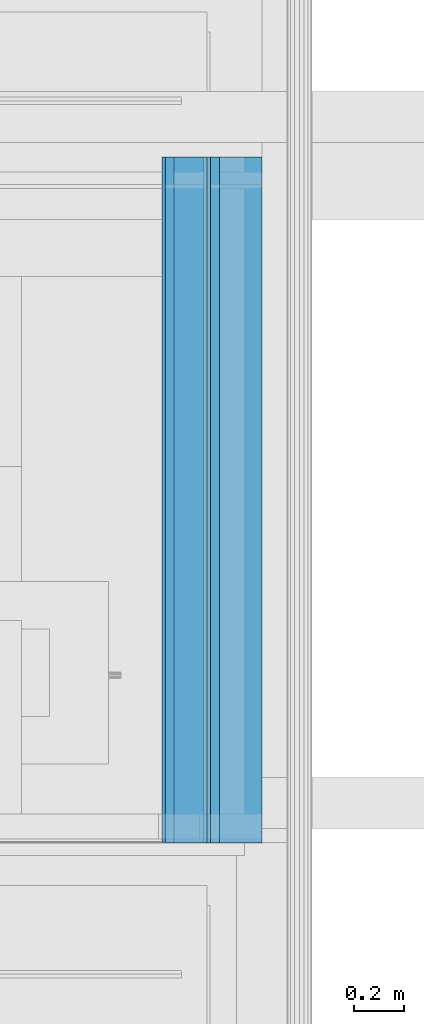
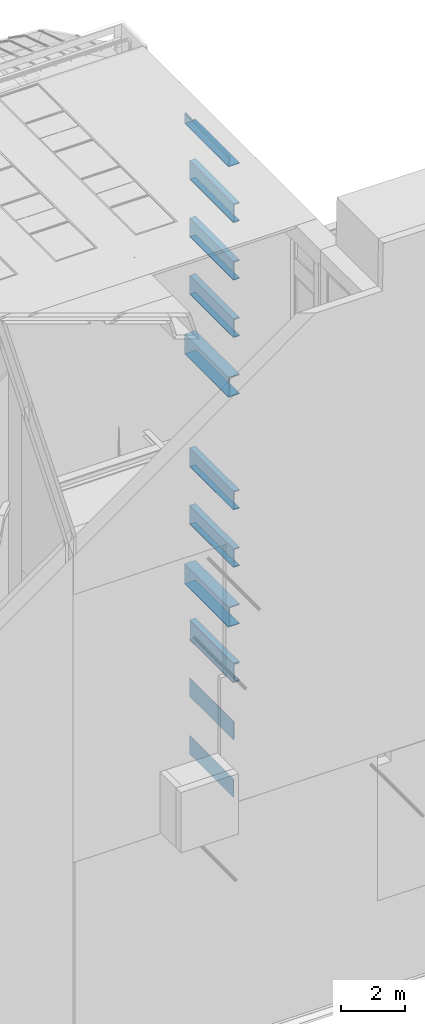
# One storey, part 113 of 583: 56 building element parts, 28 elements without a shape of their own.
"""IFC2X3 building model written with IfcOpenShell, lengths in metres."""

from ifc_helpers import new_model, entity, si_unit, converted_unit, derived_unit, money_unit, direction, frame, frame_2d, origin_with_axes, place, context, subcontext, project, spatial, polyline, rectangle, outline, extrude, material, type_object, element, aggregate, save


model = new_model("IFC2X3")

# Units and contexts
model_context = context("Model", 3, precision=1e-05, world=origin_with_axes(), true_north=direction((0.0, 1.0)))
body_context = subcontext(model_context, "Body", "Model", "MODEL_VIEW", scale=1.0)
ifc_project = project(units=[si_unit("LENGTHUNIT", "METRE"), si_unit("AREAUNIT", "SQUARE_METRE"), si_unit("VOLUMEUNIT", "CUBIC_METRE"), si_unit("ABSORBEDDOSEUNIT", "GRAY"), si_unit("AMOUNTOFSUBSTANCEUNIT", "MOLE"), si_unit("DOSEEQUIVALENTUNIT", "SIEVERT"), si_unit("ELECTRICCAPACITANCEUNIT", "FARAD"), si_unit("ELECTRICCHARGEUNIT", "COULOMB"), si_unit("ELECTRICCONDUCTANCEUNIT", "SIEMENS"), si_unit("ELECTRICCURRENTUNIT", "AMPERE"), si_unit("ELECTRICRESISTANCEUNIT", "OHM"), si_unit("ELECTRICVOLTAGEUNIT", "VOLT"), si_unit("ENERGYUNIT", "JOULE"), si_unit("FORCEUNIT", "NEWTON"), si_unit("FREQUENCYUNIT", "HERTZ"), si_unit("ILLUMINANCEUNIT", "LUX"), si_unit("INDUCTANCEUNIT", "HENRY"), si_unit("LUMINOUSFLUXUNIT", "LUMEN"), si_unit("LUMINOUSINTENSITYUNIT", "CANDELA"), si_unit("MAGNETICFLUXDENSITYUNIT", "TESLA"), si_unit("MAGNETICFLUXUNIT", "WEBER"), si_unit("MASSUNIT", "GRAM"), converted_unit("PLANEANGLEUNIT", "degree", entity("IfcReal", 0.0174532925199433), si_unit("PLANEANGLEUNIT", "RADIAN"), dimensions=[0, 0, 0, 0, 0, 0, 0]), si_unit("POWERUNIT", "WATT"), si_unit("PRESSUREUNIT", "PASCAL"), si_unit("RADIOACTIVITYUNIT", "BECQUEREL"), si_unit("SOLIDANGLEUNIT", "STERADIAN"), si_unit("THERMODYNAMICTEMPERATUREUNIT", "KELVIN"), si_unit("TIMEUNIT", "SECOND"), derived_unit("ACCELERATIONUNIT", [(si_unit("LENGTHUNIT", "METRE"), 1), (si_unit("TIMEUNIT", "SECOND"), -2)]), derived_unit("ANGULARVELOCITYUNIT", [(converted_unit("PLANEANGLEUNIT", "degree", entity("IfcReal", 0.0174532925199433), si_unit("PLANEANGLEUNIT", "RADIAN"), dimensions=[0, 0, 0, 0, 0, 0, 0]), 1), (si_unit("TIMEUNIT", "SECOND"), -1)]), derived_unit("CURVATUREUNIT", [(converted_unit("PLANEANGLEUNIT", "degree", entity("IfcReal", 0.0174532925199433), si_unit("PLANEANGLEUNIT", "RADIAN"), dimensions=[0, 0, 0, 0, 0, 0, 0]), 1), (si_unit("LENGTHUNIT", "METRE"), -1)]), derived_unit("DYNAMICVISCOSITYUNIT", [(si_unit("PRESSUREUNIT", "PASCAL"), 1), (si_unit("TIMEUNIT", "SECOND"), 1)]), derived_unit("HEATFLUXDENSITYUNIT", [(si_unit("POWERUNIT", "WATT"), 1), (si_unit("LENGTHUNIT", "METRE"), -2)]), derived_unit("HEATINGVALUEUNIT", [(si_unit("ENERGYUNIT", "JOULE"), 1), (si_unit("MASSUNIT", "GRAM"), -1)]), derived_unit("INTEGERCOUNTRATEUNIT", [(si_unit("TIMEUNIT", "SECOND"), -1)]), derived_unit("IONCONCENTRATIONUNIT", [(si_unit("MASSUNIT", "GRAM"), 1), (si_unit("VOLUMEUNIT", "CUBIC_METRE"), -1)]), derived_unit("ISOTHERMALMOISTURECAPACITYUNIT", [(si_unit("VOLUMEUNIT", "CUBIC_METRE"), 1), (si_unit("MASSUNIT", "GRAM"), -1)]), derived_unit("KINEMATICVISCOSITYUNIT", [(si_unit("AREAUNIT", "SQUARE_METRE"), 1), (si_unit("TIMEUNIT", "SECOND"), -1)]), derived_unit("LINEARFORCEUNIT", [(si_unit("FORCEUNIT", "NEWTON"), 1), (si_unit("LENGTHUNIT", "METRE"), -1)]), derived_unit("LINEARMOMENTUNIT", [(si_unit("FORCEUNIT", "NEWTON"), 1), (si_unit("LENGTHUNIT", "METRE"), -1)]), derived_unit("LINEARSTIFFNESSUNIT", [(si_unit("FORCEUNIT", "NEWTON"), 1), (si_unit("LENGTHUNIT", "METRE"), -1)]), derived_unit("LINEARVELOCITYUNIT", [(si_unit("LENGTHUNIT", "METRE"), 1), (si_unit("TIMEUNIT", "SECOND"), -1)]), derived_unit("LUMINOUSINTENSITYDISTRIBUTIONUNIT", [(si_unit("LUMINOUSINTENSITYUNIT", "CANDELA"), 1), (si_unit("LUMINOUSFLUXUNIT", "LUMEN"), -1)]), derived_unit("MASSDENSITYUNIT", [(si_unit("MASSUNIT", "GRAM"), 1), (si_unit("VOLUMEUNIT", "CUBIC_METRE"), -1)]), derived_unit("MASSFLOWRATEUNIT", [(si_unit("MASSUNIT", "GRAM"), 1), (si_unit("TIMEUNIT", "SECOND"), -1)]), derived_unit("MASSPERLENGTHUNIT", [(si_unit("MASSUNIT", "GRAM"), 1), (si_unit("LENGTHUNIT", "METRE"), -1)]), derived_unit("MODULUSOFELASTICITYUNIT", [(si_unit("FORCEUNIT", "NEWTON"), 1), (si_unit("AREAUNIT", "SQUARE_METRE"), -1)]), derived_unit("MODULUSOFLINEARSUBGRADEREACTIONUNIT", [(si_unit("FORCEUNIT", "NEWTON"), 1), (si_unit("LENGTHUNIT", "METRE"), -2)]), derived_unit("MODULUSOFROTATIONALSUBGRADEREACTIONUNIT", [(si_unit("FORCEUNIT", "NEWTON"), 1), (si_unit("LENGTHUNIT", "METRE"), 1)]), derived_unit("MODULUSOFSUBGRADEREACTIONUNIT", [(si_unit("FORCEUNIT", "NEWTON"), 1), (si_unit("VOLUMEUNIT", "CUBIC_METRE"), -1)]), derived_unit("MOISTUREDIFFUSIVITYUNIT", [(si_unit("VOLUMEUNIT", "CUBIC_METRE"), 1), (si_unit("TIMEUNIT", "SECOND"), -1)]), derived_unit("MOLECULARWEIGHTUNIT", [(si_unit("MASSUNIT", "GRAM"), 1), (si_unit("AMOUNTOFSUBSTANCEUNIT", "MOLE"), -1)]), derived_unit("PLANARFORCEUNIT", [(si_unit("FORCEUNIT", "NEWTON"), 1), (si_unit("LENGTHUNIT", "METRE"), -2)]), derived_unit("ROTATIONALFREQUENCYUNIT", [(si_unit("TIMEUNIT", "SECOND"), -1)]), derived_unit("ROTATIONALMASSUNIT", [(si_unit("MASSUNIT", "GRAM"), 1), (si_unit("LENGTHUNIT", "METRE"), 2)]), derived_unit("ROTATIONALSTIFFNESSUNIT", [(si_unit("FORCEUNIT", "NEWTON"), 1), (si_unit("LENGTHUNIT", "METRE"), 1), (converted_unit("PLANEANGLEUNIT", "degree", entity("IfcReal", 0.0174532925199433), si_unit("PLANEANGLEUNIT", "RADIAN"), dimensions=[0, 0, 0, 0, 0, 0, 0]), -1)]), derived_unit("SECTIONAREAINTEGRALUNIT", [(si_unit("LENGTHUNIT", "METRE"), 5)]), derived_unit("SECTIONMODULUSUNIT", [(si_unit("LENGTHUNIT", "METRE"), 3)]), derived_unit("SHEARMODULUSUNIT", [(si_unit("FORCEUNIT", "NEWTON"), 1), (si_unit("AREAUNIT", "SQUARE_METRE"), -1)]), derived_unit("SOUNDPOWERUNIT", [(si_unit("ENERGYUNIT", "JOULE"), 1), (si_unit("TIMEUNIT", "SECOND"), -1)]), derived_unit("SPECIFICHEATCAPACITYUNIT", [(si_unit("FORCEUNIT", "NEWTON"), 1), (si_unit("MASSUNIT", "GRAM"), -1), (si_unit("THERMODYNAMICTEMPERATUREUNIT", "KELVIN"), -1)]), derived_unit("TEMPERATUREGRADIENTUNIT", [(si_unit("THERMODYNAMICTEMPERATUREUNIT", "KELVIN"), 1), (si_unit("LENGTHUNIT", "METRE"), -1)]), derived_unit("THERMALADMITTANCEUNIT", [(si_unit("POWERUNIT", "WATT"), 1), (si_unit("AREAUNIT", "SQUARE_METRE"), -1), (si_unit("THERMODYNAMICTEMPERATUREUNIT", "KELVIN"), -1)]), derived_unit("THERMALCONDUCTANCEUNIT", [(si_unit("POWERUNIT", "WATT"), 1), (si_unit("LENGTHUNIT", "METRE"), -1), (si_unit("THERMODYNAMICTEMPERATUREUNIT", "KELVIN"), -1)]), derived_unit("THERMALEXPANSIONCOEFFICIENTUNIT", [(si_unit("THERMODYNAMICTEMPERATUREUNIT", "KELVIN"), -1)]), derived_unit("THERMALRESISTANCEUNIT", [(si_unit("AREAUNIT", "SQUARE_METRE"), 1), (si_unit("POWERUNIT", "WATT"), -1)]), derived_unit("THERMALTRANSMITTANCEUNIT", [(si_unit("POWERUNIT", "WATT"), 1), (si_unit("AREAUNIT", "SQUARE_METRE"), -1), (si_unit("THERMODYNAMICTEMPERATUREUNIT", "KELVIN"), -1)]), derived_unit("TORQUEUNIT", [(si_unit("FORCEUNIT", "NEWTON"), 1), (si_unit("LENGTHUNIT", "METRE"), 1)]), derived_unit("VAPORPERMEABILITYUNIT", [(si_unit("MASSUNIT", "GRAM"), 1), (si_unit("TIMEUNIT", "SECOND"), -1)]), derived_unit("VOLUMETRICFLOWRATEUNIT", [(si_unit("VOLUMEUNIT", "CUBIC_METRE"), 1), (si_unit("TIMEUNIT", "SECOND"), -1)]), derived_unit("WARPINGCONSTANTUNIT", [(si_unit("LENGTHUNIT", "METRE"), 6)]), derived_unit("WARPINGMOMENTUNIT", [(si_unit("FORCEUNIT", "NEWTON"), 1), (si_unit("LENGTHUNIT", "METRE"), 2)]), money_unit("GBP")], contexts=[model_context])

# Site, building, storey
site_placement = place(None, origin_with_axes())
site = spatial("IfcSite", under=ifc_project, at=site_placement, Name="Site", CompositionType="ELEMENT")
building_placement = place(site_placement, origin_with_axes())
building = spatial("IfcBuilding", under=site, at=building_placement, Name="Building01", CompositionType="ELEMENT")
storey_placement = place(building_placement, frame((0.0, 0.0, 20.78), z_axis=(0.0, 0.0, 1.0), x_axis=(1.0, 0.0, 0.0)))
storey = spatial("IfcBuildingStorey", under=building, at=storey_placement, Name="RL", CompositionType="ELEMENT", Elevation=20.78)

# Wall, building element part
wall_type_1 = type_object("IfcWallType", Name="SHE_A-Walls_Type06d_ExternalWallInsulation_48mm", PredefinedType="NOTDEFINED")
wall_1_placement = place(storey_placement, frame((14.63, 8.64, -17.913), z_axis=(0.0, 1.0, 0.0), x_axis=(0.0, 0.0, -1.0)))
wall_1 = element("IfcWall", 1, at=wall_1_placement, inside=storey, type_object=wall_type_1, Name="6D", ObjectType="SHE_A-Walls_Type06d_ExternalWallInsulation_48mm")
ifc_material_1 = material(Name="A_BSUK_WallInternal_Finishes_Plasterboard")
building_element_part_1_placement = place(wall_1_placement, origin_with_axes())
building_element_part_1 = element("IfcBuildingElementPart", 2, at=building_element_part_1_placement, material=ifc_material_1, Name="3", context=body_context, shape_type="SweptSolid", body=[
    extrude(outline(polyline([(0.672, 0.048), (-0.048, 0.048), (-0.035, 0.035), (0.659, 0.035), (0.672, 0.048)])), origin_with_axes(), (0.0, 0.0, 1.0), 2.74),
])
aggregate(wall_1, [building_element_part_1])

# Wall, building element parts
wall_2_placement = place(storey_placement, frame((14.63, 8.64, -15.723), z_axis=(0.0, 1.0, 0.0), x_axis=(0.0, 0.0, -1.0)))
wall_2 = element("IfcWall", 3, at=wall_2_placement, inside=storey, type_object=wall_type_1, Name="6D", ObjectType="SHE_A-Walls_Type06d_ExternalWallInsulation_48mm")
ifc_material_2 = material(Name="A_BSUK_Insulation")
placement_1 = place(wall_2_placement, origin_with_axes())
building_element_part_2 = element("IfcBuildingElementPart", 4, at=placement_1, material=ifc_material_2, Name="1", context=body_context, shape_type="SweptSolid", body=[
    extrude(outline(polyline([(0.66, 0.036), (-0.036, 0.036), (0.0, 0.0), (0.624, 0.0), (0.66, 0.036)])), origin_with_axes(), (0.0, 0.0, 1.0), 2.74),
])
building_element_part_3 = element("IfcBuildingElementPart", 5, at=placement_1, material=ifc_material_1, Name="3", context=body_context, shape_type="SweptSolid", body=[
    extrude(outline(polyline([(0.672, 0.048), (-0.048, 0.048), (-0.035, 0.035), (0.659, 0.035), (0.672, 0.048)])), origin_with_axes(), (0.0, 0.0, 1.0), 2.74),
])
aggregate(wall_2, [building_element_part_2, building_element_part_3])

wall_3_placement = place(storey_placement, frame((14.8, 8.64, -11.32), z_axis=(0.0, 1.0, 0.0), x_axis=(-1.0, 0.0, 0.0)))
wall_3 = element("IfcWall", 6, at=wall_3_placement, inside=storey, type_object=wall_type_1, Name="6D", ObjectType="SHE_A-Walls_Type06d_ExternalWallInsulation_48mm")
placement_2 = place(wall_3_placement, origin_with_axes())
building_element_part_4 = element("IfcBuildingElementPart", 7, at=placement_2, material=ifc_material_2, Name="1", context=body_context, shape_type="SweptSolid", body=[
    extrude(outline(polyline([(0.386, 0.036), (0.0, 0.036), (0.0, 0.0), (0.35, 0.0), (0.386, 0.036)])), origin_with_axes(), (0.0, 0.0, 1.0), 2.74),
])
building_element_part_5 = element("IfcBuildingElementPart", 8, at=placement_2, material=ifc_material_1, Name="3", context=body_context, shape_type="SweptSolid", body=[
    extrude(outline(polyline([(0.398, 0.048), (0.0, 0.048), (0.0, 0.035), (0.385, 0.035), (0.398, 0.048)])), origin_with_axes(), (0.0, 0.0, 1.0), 2.74),
])
aggregate(wall_3, [building_element_part_4, building_element_part_5])

wall_4_placement = place(storey_placement, frame((14.45, 8.64, -11.32), z_axis=(0.0, 1.0, 0.0), x_axis=(0.0, 0.0, -1.0)))
wall_4 = element("IfcWall", 9, at=wall_4_placement, inside=storey, type_object=wall_type_1, Name="6D", ObjectType="SHE_A-Walls_Type06d_ExternalWallInsulation_48mm")
placement_3 = place(wall_4_placement, origin_with_axes())
building_element_part_6 = element("IfcBuildingElementPart", 10, at=placement_3, material=ifc_material_2, Name="1", context=body_context, shape_type="SweptSolid", body=[
    extrude(outline(polyline([(0.706, 0.036), (-0.036, 0.036), (0.0, 0.0), (0.67, 0.0), (0.706, 0.036)])), origin_with_axes(), (0.0, 0.0, 1.0), 2.74),
])
building_element_part_7 = element("IfcBuildingElementPart", 11, at=placement_3, material=ifc_material_1, Name="3", context=body_context, shape_type="SweptSolid", body=[
    extrude(outline(polyline([(0.718, 0.048), (-0.048, 0.048), (-0.035, 0.035), (0.705, 0.035), (0.718, 0.048)])), origin_with_axes(), (0.0, 0.0, 1.0), 2.74),
])
aggregate(wall_4, [building_element_part_6, building_element_part_7])

wall_5_placement = place(storey_placement, frame((14.45, 8.64, -11.99), z_axis=(0.0, 1.0, 0.0), x_axis=(1.0, 0.0, 0.0)))
wall_5 = element("IfcWall", 12, at=wall_5_placement, inside=storey, type_object=wall_type_1, Name="6D", ObjectType="SHE_A-Walls_Type06d_ExternalWallInsulation_48mm")
placement_4 = place(wall_5_placement, origin_with_axes())
building_element_part_8 = element("IfcBuildingElementPart", 13, at=placement_4, material=ifc_material_2, Name="1", context=body_context, shape_type="SweptSolid", body=[
    extrude(outline(polyline([(-0.036, 0.036), (0.0, 0.0), (0.35, 0.0), (0.35, 0.036), (-0.036, 0.036)])), origin_with_axes(), (0.0, 0.0, 1.0), 2.74),
])
building_element_part_9 = element("IfcBuildingElementPart", 14, at=placement_4, material=ifc_material_1, Name="3", context=body_context, shape_type="SweptSolid", body=[
    extrude(outline(polyline([(-0.048, 0.048), (-0.035, 0.035), (0.35, 0.035), (0.35, 0.048), (-0.048, 0.048)])), origin_with_axes(), (0.0, 0.0, 1.0), 2.74),
])
aggregate(wall_5, [building_element_part_8, building_element_part_9])

wall_6_placement = place(storey_placement, frame((14.8, 8.64, -9.153), z_axis=(0.0, 1.0, 0.0), x_axis=(-1.0, 0.0, 0.0)))
wall_6 = element("IfcWall", 15, at=wall_6_placement, inside=storey, type_object=wall_type_1, Name="6D", ObjectType="SHE_A-Walls_Type06d_ExternalWallInsulation_48mm")
placement_5 = place(wall_6_placement, origin_with_axes())
building_element_part_10 = element("IfcBuildingElementPart", 16, at=placement_5, material=ifc_material_2, Name="1", context=body_context, shape_type="SweptSolid", body=[
    extrude(outline(polyline([(0.206, 0.036), (0.0, 0.036), (0.0, 0.0), (0.17, 0.0), (0.206, 0.036)])), origin_with_axes(), (0.0, 0.0, 1.0), 2.74),
])
building_element_part_11 = element("IfcBuildingElementPart", 17, at=placement_5, material=ifc_material_1, Name="3", context=body_context, shape_type="SweptSolid", body=[
    extrude(outline(polyline([(0.218, 0.048), (0.0, 0.048), (0.0, 0.035), (0.205, 0.035), (0.218, 0.048)])), origin_with_axes(), (0.0, 0.0, 1.0), 2.74),
])
aggregate(wall_6, [building_element_part_10, building_element_part_11])

wall_7_placement = place(storey_placement, frame((14.63, 8.64, -9.777), z_axis=(0.0, 1.0, 0.0), x_axis=(1.0, 0.0, 0.0)))
wall_7 = element("IfcWall", 18, at=wall_7_placement, inside=storey, type_object=wall_type_1, Name="6D", ObjectType="SHE_A-Walls_Type06d_ExternalWallInsulation_48mm")
placement_6 = place(wall_7_placement, origin_with_axes())
building_element_part_12 = element("IfcBuildingElementPart", 19, at=placement_6, material=ifc_material_2, Name="1", context=body_context, shape_type="SweptSolid", body=[
    extrude(outline(polyline([(-0.036, 0.036), (0.0, 0.0), (0.17, 0.0), (0.17, 0.036), (-0.036, 0.036)])), origin_with_axes(), (0.0, 0.0, 1.0), 2.74),
])
building_element_part_13 = element("IfcBuildingElementPart", 20, at=placement_6, material=ifc_material_1, Name="3", context=body_context, shape_type="SweptSolid", body=[
    extrude(outline(polyline([(-0.048, 0.048), (-0.035, 0.035), (0.17, 0.035), (0.17, 0.048), (-0.048, 0.048)])), origin_with_axes(), (0.0, 0.0, 1.0), 2.74),
])
aggregate(wall_7, [building_element_part_12, building_element_part_13])

wall_8_placement = place(storey_placement, frame((14.8, 8.64, -6.963), z_axis=(0.0, 1.0, 0.0), x_axis=(-1.0, 0.0, 0.0)))
wall_8 = element("IfcWall", 21, at=wall_8_placement, inside=storey, type_object=wall_type_1, Name="6D", ObjectType="SHE_A-Walls_Type06d_ExternalWallInsulation_48mm")
placement_7 = place(wall_8_placement, origin_with_axes())
building_element_part_14 = element("IfcBuildingElementPart", 22, at=placement_7, material=ifc_material_2, Name="1", context=body_context, shape_type="SweptSolid", body=[
    extrude(outline(polyline([(0.206, 0.036), (0.0, 0.036), (0.0, 0.0), (0.17, 0.0), (0.206, 0.036)])), origin_with_axes(), (0.0, 0.0, 1.0), 2.74),
])
building_element_part_15 = element("IfcBuildingElementPart", 23, at=placement_7, material=ifc_material_1, Name="3", context=body_context, shape_type="SweptSolid", body=[
    extrude(outline(polyline([(0.218, 0.048), (0.0, 0.048), (0.0, 0.035), (0.205, 0.035), (0.218, 0.048)])), origin_with_axes(), (0.0, 0.0, 1.0), 2.74),
])
aggregate(wall_8, [building_element_part_14, building_element_part_15])

wall_9_placement = place(storey_placement, frame((14.63, 8.64, -6.963), z_axis=(0.0, 1.0, 0.0), x_axis=(0.0, 0.0, -1.0)))
wall_9 = element("IfcWall", 24, at=wall_9_placement, inside=storey, type_object=wall_type_1, Name="6D", ObjectType="SHE_A-Walls_Type06d_ExternalWallInsulation_48mm")
placement_8 = place(wall_9_placement, origin_with_axes())
building_element_part_16 = element("IfcBuildingElementPart", 25, at=placement_8, material=ifc_material_2, Name="1", context=body_context, shape_type="SweptSolid", body=[
    extrude(outline(polyline([(0.66, 0.036), (-0.036, 0.036), (0.0, 0.0), (0.624, 0.0), (0.66, 0.036)])), origin_with_axes(), (0.0, 0.0, 1.0), 2.74),
])
building_element_part_17 = element("IfcBuildingElementPart", 26, at=placement_8, material=ifc_material_1, Name="3", context=body_context, shape_type="SweptSolid", body=[
    extrude(outline(polyline([(0.672, 0.048), (-0.048, 0.048), (-0.035, 0.035), (0.659, 0.035), (0.672, 0.048)])), origin_with_axes(), (0.0, 0.0, 1.0), 2.74),
])
aggregate(wall_9, [building_element_part_16, building_element_part_17])

wall_10_placement = place(storey_placement, frame((14.63, 8.64, -7.587), z_axis=(0.0, 1.0, 0.0), x_axis=(1.0, 0.0, 0.0)))
wall_10 = element("IfcWall", 27, at=wall_10_placement, inside=storey, type_object=wall_type_1, Name="6D", ObjectType="SHE_A-Walls_Type06d_ExternalWallInsulation_48mm")
placement_9 = place(wall_10_placement, origin_with_axes())
building_element_part_18 = element("IfcBuildingElementPart", 28, at=placement_9, material=ifc_material_2, Name="1", context=body_context, shape_type="SweptSolid", body=[
    extrude(outline(polyline([(-0.036, 0.036), (0.0, 0.0), (0.17, 0.0), (0.17, 0.036), (-0.036, 0.036)])), origin_with_axes(), (0.0, 0.0, 1.0), 2.74),
])
building_element_part_19 = element("IfcBuildingElementPart", 29, at=placement_9, material=ifc_material_1, Name="3", context=body_context, shape_type="SweptSolid", body=[
    extrude(outline(polyline([(-0.048, 0.048), (-0.035, 0.035), (0.17, 0.035), (0.17, 0.048), (-0.048, 0.048)])), origin_with_axes(), (0.0, 0.0, 1.0), 2.74),
])
aggregate(wall_10, [building_element_part_18, building_element_part_19])

wall_11_placement = place(storey_placement, frame((14.8, 8.64, -2.56), z_axis=(0.0, 1.0, 0.0), x_axis=(-1.0, 0.0, 0.0)))
wall_11 = element("IfcWall", 30, at=wall_11_placement, inside=storey, type_object=wall_type_1, Name="6D", ObjectType="SHE_A-Walls_Type06d_ExternalWallInsulation_48mm")
placement_10 = place(wall_11_placement, origin_with_axes())
building_element_part_20 = element("IfcBuildingElementPart", 31, at=placement_10, material=ifc_material_2, Name="1", context=body_context, shape_type="SweptSolid", body=[
    extrude(outline(polyline([(0.386, 0.036), (0.0, 0.036), (0.0, 0.0), (0.35, 0.0), (0.386, 0.036)])), origin_with_axes(), (0.0, 0.0, 1.0), 2.74),
])
building_element_part_21 = element("IfcBuildingElementPart", 32, at=placement_10, material=ifc_material_1, Name="3", context=body_context, shape_type="SweptSolid", body=[
    extrude(outline(polyline([(0.398, 0.048), (0.0, 0.048), (0.0, 0.035), (0.385, 0.035), (0.398, 0.048)])), origin_with_axes(), (0.0, 0.0, 1.0), 2.74),
])
aggregate(wall_11, [building_element_part_20, building_element_part_21])

wall_12_placement = place(storey_placement, frame((14.45, 8.64, -2.56), z_axis=(0.0, 1.0, 0.0), x_axis=(0.0, 0.0, -1.0)))
wall_12 = element("IfcWall", 33, at=wall_12_placement, inside=storey, type_object=wall_type_1, Name="6D", ObjectType="SHE_A-Walls_Type06d_ExternalWallInsulation_48mm")
placement_11 = place(wall_12_placement, origin_with_axes())
building_element_part_22 = element("IfcBuildingElementPart", 34, at=placement_11, material=ifc_material_2, Name="1", context=body_context, shape_type="SweptSolid", body=[
    extrude(outline(polyline([(0.706, 0.036), (-0.036, 0.036), (0.0, 0.0), (0.67, 0.0), (0.706, 0.036)])), origin_with_axes(), (0.0, 0.0, 1.0), 2.74),
])
building_element_part_23 = element("IfcBuildingElementPart", 35, at=placement_11, material=ifc_material_1, Name="3", context=body_context, shape_type="SweptSolid", body=[
    extrude(outline(polyline([(0.718, 0.048), (-0.048, 0.048), (-0.035, 0.035), (0.705, 0.035), (0.718, 0.048)])), origin_with_axes(), (0.0, 0.0, 1.0), 2.74),
])
aggregate(wall_12, [building_element_part_22, building_element_part_23])

wall_13_placement = place(storey_placement, frame((14.45, 8.64, -3.23), z_axis=(0.0, 1.0, 0.0), x_axis=(1.0, 0.0, 0.0)))
wall_13 = element("IfcWall", 36, at=wall_13_placement, inside=storey, type_object=wall_type_1, Name="6D", ObjectType="SHE_A-Walls_Type06d_ExternalWallInsulation_48mm")
placement_12 = place(wall_13_placement, origin_with_axes())
building_element_part_24 = element("IfcBuildingElementPart", 37, at=placement_12, material=ifc_material_2, Name="1", context=body_context, shape_type="SweptSolid", body=[
    extrude(outline(polyline([(-0.036, 0.036), (0.0, 0.0), (0.35, 0.0), (0.35, 0.036), (-0.036, 0.036)])), origin_with_axes(), (0.0, 0.0, 1.0), 2.74),
])
building_element_part_25 = element("IfcBuildingElementPart", 38, at=placement_12, material=ifc_material_1, Name="3", context=body_context, shape_type="SweptSolid", body=[
    extrude(outline(polyline([(-0.048, 0.048), (-0.035, 0.035), (0.35, 0.035), (0.35, 0.048), (-0.048, 0.048)])), origin_with_axes(), (0.0, 0.0, 1.0), 2.74),
])
aggregate(wall_13, [building_element_part_24, building_element_part_25])

wall_14_placement = place(storey_placement, frame((14.8, 8.64, -0.393), z_axis=(0.0, 1.0, 0.0), x_axis=(-1.0, 0.0, 0.0)))
wall_14 = element("IfcWall", 39, at=wall_14_placement, inside=storey, type_object=wall_type_1, Name="6D", ObjectType="SHE_A-Walls_Type06d_ExternalWallInsulation_48mm")
placement_13 = place(wall_14_placement, origin_with_axes())
building_element_part_26 = element("IfcBuildingElementPart", 40, at=placement_13, material=ifc_material_2, Name="1", context=body_context, shape_type="SweptSolid", body=[
    extrude(outline(polyline([(0.206, 0.036), (0.0, 0.036), (0.0, 0.0), (0.17, 0.0), (0.206, 0.036)])), origin_with_axes(), (0.0, 0.0, 1.0), 2.74),
])
building_element_part_27 = element("IfcBuildingElementPart", 41, at=placement_13, material=ifc_material_1, Name="3", context=body_context, shape_type="SweptSolid", body=[
    extrude(outline(polyline([(0.218, 0.048), (0.0, 0.048), (0.0, 0.035), (0.205, 0.035), (0.218, 0.048)])), origin_with_axes(), (0.0, 0.0, 1.0), 2.74),
])
aggregate(wall_14, [building_element_part_26, building_element_part_27])

wall_15_placement = place(storey_placement, frame((14.63, 8.64, -0.393), z_axis=(0.0, 1.0, 0.0), x_axis=(0.0, 0.0, -1.0)))
wall_15 = element("IfcWall", 42, at=wall_15_placement, inside=storey, type_object=wall_type_1, Name="6D", ObjectType="SHE_A-Walls_Type06d_ExternalWallInsulation_48mm")
placement_14 = place(wall_15_placement, origin_with_axes())
building_element_part_28 = element("IfcBuildingElementPart", 43, at=placement_14, material=ifc_material_2, Name="1", context=body_context, shape_type="SweptSolid", body=[
    extrude(outline(polyline([(0.66, 0.036), (-0.036, 0.036), (0.0, 0.0), (0.624, 0.0), (0.66, 0.036)])), origin_with_axes(), (0.0, 0.0, 1.0), 2.74),
])
building_element_part_29 = element("IfcBuildingElementPart", 44, at=placement_14, material=ifc_material_1, Name="3", context=body_context, shape_type="SweptSolid", body=[
    extrude(outline(polyline([(0.672, 0.048), (-0.048, 0.048), (-0.035, 0.035), (0.659, 0.035), (0.672, 0.048)])), origin_with_axes(), (0.0, 0.0, 1.0), 2.74),
])
aggregate(wall_15, [building_element_part_28, building_element_part_29])

wall_16_placement = place(storey_placement, frame((14.63, 8.64, -1.017), z_axis=(0.0, 1.0, 0.0), x_axis=(1.0, 0.0, 0.0)))
wall_16 = element("IfcWall", 45, at=wall_16_placement, inside=storey, type_object=wall_type_1, Name="6D", ObjectType="SHE_A-Walls_Type06d_ExternalWallInsulation_48mm")
placement_15 = place(wall_16_placement, origin_with_axes())
building_element_part_30 = element("IfcBuildingElementPart", 46, at=placement_15, material=ifc_material_2, Name="1", context=body_context, shape_type="SweptSolid", body=[
    extrude(outline(polyline([(-0.036, 0.036), (0.0, 0.0), (0.17, 0.0), (0.17, 0.036), (-0.036, 0.036)])), origin_with_axes(), (0.0, 0.0, 1.0), 2.74),
])
building_element_part_31 = element("IfcBuildingElementPart", 47, at=placement_15, material=ifc_material_1, Name="3", context=body_context, shape_type="SweptSolid", body=[
    extrude(outline(polyline([(-0.048, 0.048), (-0.035, 0.035), (0.17, 0.035), (0.17, 0.048), (-0.048, 0.048)])), origin_with_axes(), (0.0, 0.0, 1.0), 2.74),
])
aggregate(wall_16, [building_element_part_30, building_element_part_31])

wall_17_placement = place(storey_placement, frame((14.8, 8.64, 1.797), z_axis=(0.0, 1.0, 0.0), x_axis=(-1.0, 0.0, 0.0)))
wall_17 = element("IfcWall", 48, at=wall_17_placement, inside=storey, type_object=wall_type_1, Name="6D", ObjectType="SHE_A-Walls_Type06d_ExternalWallInsulation_48mm")
placement_16 = place(wall_17_placement, origin_with_axes())
building_element_part_32 = element("IfcBuildingElementPart", 49, at=placement_16, material=ifc_material_2, Name="1", context=body_context, shape_type="SweptSolid", body=[
    extrude(outline(polyline([(0.206, 0.036), (0.0, 0.036), (0.0, 0.0), (0.17, 0.0), (0.206, 0.036)])), origin_with_axes(), (0.0, 0.0, 1.0), 2.74),
])
building_element_part_33 = element("IfcBuildingElementPart", 50, at=placement_16, material=ifc_material_1, Name="3", context=body_context, shape_type="SweptSolid", body=[
    extrude(outline(polyline([(0.218, 0.048), (0.0, 0.048), (0.0, 0.035), (0.205, 0.035), (0.218, 0.048)])), origin_with_axes(), (0.0, 0.0, 1.0), 2.74),
])
aggregate(wall_17, [building_element_part_32, building_element_part_33])

wall_18_placement = place(storey_placement, frame((14.63, 8.64, 1.797), z_axis=(0.0, 1.0, 0.0), x_axis=(0.0, 0.0, -1.0)))
wall_18 = element("IfcWall", 51, at=wall_18_placement, inside=storey, type_object=wall_type_1, Name="6D", ObjectType="SHE_A-Walls_Type06d_ExternalWallInsulation_48mm")
placement_17 = place(wall_18_placement, origin_with_axes())
building_element_part_34 = element("IfcBuildingElementPart", 52, at=placement_17, material=ifc_material_2, Name="1", context=body_context, shape_type="SweptSolid", body=[
    extrude(outline(polyline([(0.66, 0.036), (-0.036, 0.036), (0.0, 0.0), (0.624, 0.0), (0.66, 0.036)])), origin_with_axes(), (0.0, 0.0, 1.0), 2.74),
])
building_element_part_35 = element("IfcBuildingElementPart", 53, at=placement_17, material=ifc_material_1, Name="3", context=body_context, shape_type="SweptSolid", body=[
    extrude(outline(polyline([(0.672, 0.048), (-0.048, 0.048), (-0.035, 0.035), (0.659, 0.035), (0.672, 0.048)])), origin_with_axes(), (0.0, 0.0, 1.0), 2.74),
])
aggregate(wall_18, [building_element_part_34, building_element_part_35])

wall_19_placement = place(storey_placement, frame((14.63, 8.64, 1.173), z_axis=(0.0, 1.0, 0.0), x_axis=(1.0, 0.0, 0.0)))
wall_19 = element("IfcWall", 54, at=wall_19_placement, inside=storey, type_object=wall_type_1, Name="6D", ObjectType="SHE_A-Walls_Type06d_ExternalWallInsulation_48mm")
placement_18 = place(wall_19_placement, origin_with_axes())
building_element_part_36 = element("IfcBuildingElementPart", 55, at=placement_18, material=ifc_material_2, Name="1", context=body_context, shape_type="SweptSolid", body=[
    extrude(outline(polyline([(-0.036, 0.036), (0.0, 0.0), (0.17, 0.0), (0.17, 0.036), (-0.036, 0.036)])), origin_with_axes(), (0.0, 0.0, 1.0), 2.74),
])
building_element_part_37 = element("IfcBuildingElementPart", 56, at=placement_18, material=ifc_material_1, Name="3", context=body_context, shape_type="SweptSolid", body=[
    extrude(outline(polyline([(-0.048, 0.048), (-0.035, 0.035), (0.17, 0.035), (0.17, 0.048), (-0.048, 0.048)])), origin_with_axes(), (0.0, 0.0, 1.0), 2.74),
])
aggregate(wall_19, [building_element_part_36, building_element_part_37])

wall_20_placement = place(storey_placement, frame((14.8, 8.64, 3.987), z_axis=(0.0, 1.0, 0.0), x_axis=(-1.0, 0.0, 0.0)))
wall_20 = element("IfcWall", 57, at=wall_20_placement, inside=storey, type_object=wall_type_1, Name="6D", ObjectType="SHE_A-Walls_Type06d_ExternalWallInsulation_48mm")
placement_19 = place(wall_20_placement, origin_with_axes())
building_element_part_38 = element("IfcBuildingElementPart", 58, at=placement_19, material=ifc_material_2, Name="1", context=body_context, shape_type="SweptSolid", body=[
    extrude(outline(polyline([(0.206, 0.036), (0.0, 0.036), (0.0, 0.0), (0.17, 0.0), (0.206, 0.036)])), origin_with_axes(), (0.0, 0.0, 1.0), 2.74),
])
building_element_part_39 = element("IfcBuildingElementPart", 59, at=placement_19, material=ifc_material_1, Name="3", context=body_context, shape_type="SweptSolid", body=[
    extrude(outline(polyline([(0.218, 0.048), (0.0, 0.048), (0.0, 0.035), (0.205, 0.035), (0.218, 0.048)])), origin_with_axes(), (0.0, 0.0, 1.0), 2.74),
])
aggregate(wall_20, [building_element_part_38, building_element_part_39])

wall_21_placement = place(storey_placement, frame((14.63, 8.64, 3.987), z_axis=(0.0, 1.0, 0.0), x_axis=(0.0, 0.0, -1.0)))
wall_21 = element("IfcWall", 60, at=wall_21_placement, inside=storey, type_object=wall_type_1, Name="6D", ObjectType="SHE_A-Walls_Type06d_ExternalWallInsulation_48mm")
placement_20 = place(wall_21_placement, origin_with_axes())
building_element_part_40 = element("IfcBuildingElementPart", 61, at=placement_20, material=ifc_material_2, Name="1", context=body_context, shape_type="SweptSolid", body=[
    extrude(outline(polyline([(0.66, 0.036), (-0.036, 0.036), (0.0, 0.0), (0.624, 0.0), (0.66, 0.036)])), origin_with_axes(), (0.0, 0.0, 1.0), 2.74),
])
building_element_part_41 = element("IfcBuildingElementPart", 62, at=placement_20, material=ifc_material_1, Name="3", context=body_context, shape_type="SweptSolid", body=[
    extrude(outline(polyline([(0.672, 0.048), (-0.048, 0.048), (-0.035, 0.035), (0.659, 0.035), (0.672, 0.048)])), origin_with_axes(), (0.0, 0.0, 1.0), 2.74),
])
aggregate(wall_21, [building_element_part_40, building_element_part_41])

wall_22_placement = place(storey_placement, frame((14.63, 8.64, 3.363), z_axis=(0.0, 1.0, 0.0), x_axis=(1.0, 0.0, 0.0)))
wall_22 = element("IfcWall", 63, at=wall_22_placement, inside=storey, type_object=wall_type_1, Name="6D", ObjectType="SHE_A-Walls_Type06d_ExternalWallInsulation_48mm")
placement_21 = place(wall_22_placement, origin_with_axes())
building_element_part_42 = element("IfcBuildingElementPart", 64, at=placement_21, material=ifc_material_2, Name="1", context=body_context, shape_type="SweptSolid", body=[
    extrude(outline(polyline([(-0.036, 0.036), (0.0, 0.0), (0.17, 0.0), (0.17, 0.036), (-0.036, 0.036)])), origin_with_axes(), (0.0, 0.0, 1.0), 2.74),
])
building_element_part_43 = element("IfcBuildingElementPart", 65, at=placement_21, material=ifc_material_1, Name="3", context=body_context, shape_type="SweptSolid", body=[
    extrude(outline(polyline([(-0.048, 0.048), (-0.035, 0.035), (0.17, 0.035), (0.17, 0.048), (-0.048, 0.048)])), origin_with_axes(), (0.0, 0.0, 1.0), 2.74),
])
aggregate(wall_22, [building_element_part_42, building_element_part_43])

wall_23_placement = place(storey_placement, frame((14.45, 8.64, 5.93), z_axis=(0.0, 1.0, 0.0), x_axis=(0.0, 0.0, -1.0)))
wall_23 = element("IfcWall", 66, at=wall_23_placement, inside=storey, type_object=wall_type_1, Name="6D", ObjectType="SHE_A-Walls_Type06d_ExternalWallInsulation_48mm")
placement_22 = place(wall_23_placement, origin_with_axes())
building_element_part_44 = element("IfcBuildingElementPart", 67, at=placement_22, material=ifc_material_2, Name="1", context=body_context, shape_type="SweptSolid", body=[
    extrude(outline(polyline([(0.413, 0.036), (0.036, 0.036), (0.0, 0.0), (0.377, 0.0), (0.413, 0.036)])), origin_with_axes(), (0.0, 0.0, 1.0), 2.74),
])
building_element_part_45 = element("IfcBuildingElementPart", 68, at=placement_22, material=ifc_material_1, Name="3", context=body_context, shape_type="SweptSolid", body=[
    extrude(outline(polyline([(0.425, 0.048), (0.048, 0.048), (0.035, 0.035), (0.412, 0.035), (0.425, 0.048)])), origin_with_axes(), (0.0, 0.0, 1.0), 2.74),
])
aggregate(wall_23, [building_element_part_44, building_element_part_45])

wall_24_placement = place(storey_placement, frame((14.45, 8.64, 5.553), z_axis=(0.0, 1.0, 0.0), x_axis=(1.0, 0.0, 0.0)))
wall_24 = element("IfcWall", 69, at=wall_24_placement, inside=storey, type_object=wall_type_1, Name="6D", ObjectType="SHE_A-Walls_Type06d_ExternalWallInsulation_48mm")
placement_23 = place(wall_24_placement, origin_with_axes())
building_element_part_46 = element("IfcBuildingElementPart", 70, at=placement_23, material=ifc_material_2, Name="1", context=body_context, shape_type="SweptSolid", body=[
    extrude(outline(polyline([(-0.036, 0.036), (0.0, 0.0), (0.35, 0.0), (0.35, 0.036), (-0.036, 0.036)])), origin_with_axes(), (0.0, 0.0, 1.0), 2.74),
])
building_element_part_47 = element("IfcBuildingElementPart", 71, at=placement_23, material=ifc_material_1, Name="3", context=body_context, shape_type="SweptSolid", body=[
    extrude(outline(polyline([(-0.048, 0.048), (-0.035, 0.035), (0.35, 0.035), (0.35, 0.048), (-0.048, 0.048)])), origin_with_axes(), (0.0, 0.0, 1.0), 2.74),
])
aggregate(wall_24, [building_element_part_46, building_element_part_47])

wall_25_placement = place(storey_placement, frame((14.63, 8.64, -9.153), z_axis=(0.0, 1.0, 0.0), x_axis=(0.0, 0.0, -1.0)))
wall_25 = element("IfcWall", 72, at=wall_25_placement, inside=storey, type_object=wall_type_1, Name="6D", ObjectType="SHE_A-Walls_Type06d_ExternalWallInsulation_48mm")
placement_24 = place(wall_25_placement, origin_with_axes())
building_element_part_48 = element("IfcBuildingElementPart", 73, at=placement_24, material=ifc_material_2, Name="1", context=body_context, shape_type="SweptSolid", body=[
    extrude(outline(polyline([(0.66, 0.036), (-0.036, 0.036), (0.0, 0.0), (0.624, 0.0), (0.66, 0.036)])), origin_with_axes(), (0.0, 0.0, 1.0), 2.74),
])
building_element_part_49 = element("IfcBuildingElementPart", 74, at=placement_24, material=ifc_material_1, Name="4", context=body_context, shape_type="SweptSolid", body=[
    extrude(outline(polyline([(0.672, 0.048), (-0.048, 0.048), (-0.035, 0.035), (0.659, 0.035), (0.672, 0.048)])), origin_with_axes(), (0.0, 0.0, 1.0), 2.74),
])
aggregate(wall_25, [building_element_part_48, building_element_part_49])

wall_type_2 = type_object("IfcWallType", Name="SHE_A-Walls_Type06f_ExternalWallInsulation_48+15mm", PredefinedType="NOTDEFINED")
wall_26_placement = place(storey_placement, frame((14.63, 8.64, -13.533), z_axis=(0.0, 1.0, 0.0), x_axis=(1.0, 0.0, 0.0)))
wall_26 = element("IfcWall", 75, at=wall_26_placement, inside=storey, type_object=wall_type_2, Name="6F", ObjectType="SHE_A-Walls_Type06f_ExternalWallInsulation_48+15mm")
placement_25 = place(wall_26_placement, origin_with_axes())
building_element_part_50 = element("IfcBuildingElementPart", 76, at=placement_25, material=ifc_material_2, Name="1", context=body_context, shape_type="SweptSolid", body=[
    extrude(rectangle(XDim=0.17, YDim=0.036, at=frame_2d((0.085, -0.018), x_axis=(-1.0, 0.0))), origin_with_axes(), (0.0, 0.0, 1.0), 2.74),
])
building_element_part_51 = element("IfcBuildingElementPart", 77, at=placement_25, material=ifc_material_1, Name="3", context=body_context, shape_type="SweptSolid", body=[
    extrude(rectangle(XDim=0.218, YDim=0.015, at=frame_2d((0.061, -0.0555), x_axis=(-1.0, 0.0))), origin_with_axes(), (0.0, 0.0, 1.0), 2.74),
])
building_element_part_52 = element("IfcBuildingElementPart", 78, at=placement_25, material=ifc_material_1, Name="4", context=body_context, shape_type="SweptSolid", body=[
    extrude(rectangle(XDim=0.218, YDim=0.012, at=frame_2d((0.061, -0.042), x_axis=(-1.0, 0.0))), origin_with_axes(), (0.0, 0.0, 1.0), 2.74),
])
aggregate(wall_26, [building_element_part_50, building_element_part_51, building_element_part_52])

wall_27_placement = place(storey_placement, frame((14.63, 8.64, -14.157124), z_axis=(0.0, 1.0, 0.0), x_axis=(1.0, 0.0, 0.0)))
wall_27 = element("IfcWall", 79, at=wall_27_placement, inside=storey, type_object=wall_type_2, Name="6F", ObjectType="SHE_A-Walls_Type06f_ExternalWallInsulation_48+15mm")
placement_26 = place(wall_27_placement, origin_with_axes())
building_element_part_53 = element("IfcBuildingElementPart", 80, at=placement_26, material=ifc_material_2, Name="1", context=body_context, shape_type="SweptSolid", body=[
    extrude(rectangle(XDim=0.17, YDim=0.036, at=frame_2d((0.085, 0.018), x_axis=(-1.0, 0.0))), origin_with_axes(), (0.0, 0.0, 1.0), 2.74),
])
building_element_part_54 = element("IfcBuildingElementPart", 81, at=placement_26, material=ifc_material_1, Name="3", context=body_context, shape_type="SweptSolid", body=[
    extrude(outline(polyline([(0.17, 0.063), (-0.063, 0.063), (-0.048, 0.048), (0.17, 0.048), (0.17, 0.063)])), origin_with_axes(), (0.0, 0.0, 1.0), 2.74),
])
building_element_part_55 = element("IfcBuildingElementPart", 82, at=placement_26, material=ifc_material_1, Name="4", context=body_context, shape_type="SweptSolid", body=[
    extrude(rectangle(XDim=0.206, YDim=0.012, at=frame_2d((0.067, 0.042), x_axis=(-1.0, 0.0))), origin_with_axes(), (0.0, 0.0, 1.0), 2.74),
])
aggregate(wall_27, [building_element_part_53, building_element_part_54, building_element_part_55])

# Wall, building element part
wall_28_placement = place(storey_placement, frame((14.63, 8.64, -13.497), z_axis=(0.0, 1.0, 0.0), x_axis=(0.0, 0.0, -1.0)))
wall_28 = element("IfcWall", 83, at=wall_28_placement, inside=storey, type_object=wall_type_2, Name="6F", ObjectType="SHE_A-Walls_Type06f_ExternalWallInsulation_48+15mm")
building_element_part_56_placement = place(wall_28_placement, origin_with_axes())
building_element_part_56 = element("IfcBuildingElementPart", 84, at=building_element_part_56_placement, material=ifc_material_2, Name="1", context=body_context, shape_type="SweptSolid", body=[
    extrude(rectangle(XDim=0.696124, YDim=0.036, at=frame_2d((0.348062, 0.018), x_axis=(-1.0, 0.0))), origin_with_axes(), (0.0, 0.0, 1.0), 2.74),
])
aggregate(wall_28, [building_element_part_56])

save(model, "model.ifc")
